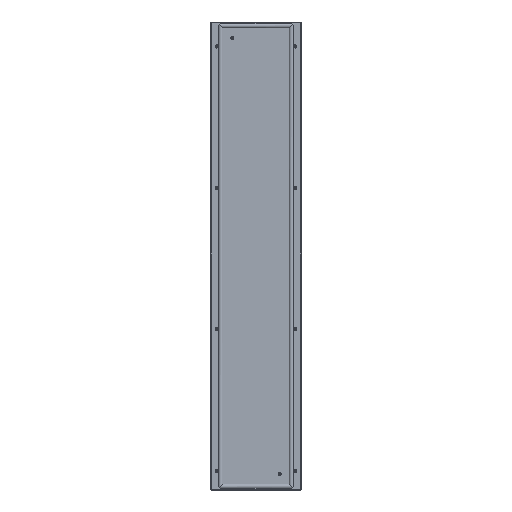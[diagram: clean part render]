
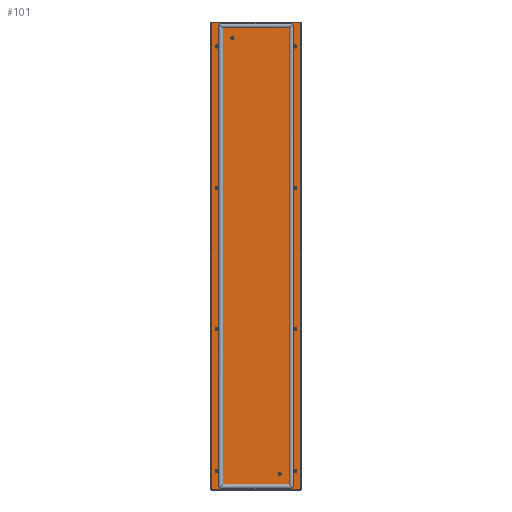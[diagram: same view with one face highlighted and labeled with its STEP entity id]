
A CAD part, top view. The second image highlights one B-rep face of the part: STEP entity #101.
In plain terms, the highlighted planar face has unit normal (0, 0, 1).
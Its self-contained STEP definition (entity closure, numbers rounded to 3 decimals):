
#101=ADVANCED_FACE('',(#386,#388,#390,#392,#394,#396,#398,#400,#402,#404,#406),#408,
.T.);
#386=FACE_BOUND('',#387,.T.);
#387=EDGE_LOOP('',(#1653,#1654,#1655,#1656));
#388=FACE_BOUND('',#389,.T.);
#389=EDGE_LOOP('',(#1657));
#390=FACE_BOUND('',#391,.T.);
#391=EDGE_LOOP('',(#1658));
#392=FACE_BOUND('',#393,.T.);
#393=EDGE_LOOP('',(#1659));
#394=FACE_BOUND('',#395,.T.);
#395=EDGE_LOOP('',(#1660));
#396=FACE_BOUND('',#397,.T.);
#397=EDGE_LOOP('',(#1661));
#398=FACE_BOUND('',#399,.T.);
#399=EDGE_LOOP('',(#1662));
#400=FACE_BOUND('',#401,.T.);
#401=EDGE_LOOP('',(#1663));
#402=FACE_BOUND('',#403,.T.);
#403=EDGE_LOOP('',(#1664));
#404=FACE_BOUND('',#405,.T.);
#405=EDGE_LOOP('',(#1665));
#406=FACE_BOUND('',#407,.T.);
#407=EDGE_LOOP('',(#1666));
#408=PLANE('',#409);
#409=AXIS2_PLACEMENT_3D('',#410,#411,#412);
#410=CARTESIAN_POINT('',(0.,0.,1.4));
#411=DIRECTION('',(0.,0.,1.));
#412=DIRECTION('',(1.,0.,0.));
#1653=ORIENTED_EDGE('',*,*,#2181,.F.);
#1654=ORIENTED_EDGE('',*,*,#2182,.F.);
#1655=ORIENTED_EDGE('',*,*,#2183,.F.);
#1656=ORIENTED_EDGE('',*,*,#2184,.F.);
#1657=ORIENTED_EDGE('',*,*,#2145,.F.);
#1658=ORIENTED_EDGE('',*,*,#2147,.F.);
#1659=ORIENTED_EDGE('',*,*,#2161,.F.);
#1660=ORIENTED_EDGE('',*,*,#2151,.F.);
#1661=ORIENTED_EDGE('',*,*,#2155,.F.);
#1662=ORIENTED_EDGE('',*,*,#2153,.F.);
#1663=ORIENTED_EDGE('',*,*,#2163,.F.);
#1664=ORIENTED_EDGE('',*,*,#2159,.F.);
#1665=ORIENTED_EDGE('',*,*,#2149,.F.);
#1666=ORIENTED_EDGE('',*,*,#2157,.F.);
#2145=EDGE_CURVE('',#2409,#2409,#2410,.T.);
#2147=EDGE_CURVE('',#2413,#2413,#2414,.T.);
#2149=EDGE_CURVE('',#2417,#2417,#2418,.T.);
#2151=EDGE_CURVE('',#2421,#2421,#2422,.T.);
#2153=EDGE_CURVE('',#2425,#2425,#2426,.T.);
#2155=EDGE_CURVE('',#2429,#2429,#2430,.T.);
#2157=EDGE_CURVE('',#2433,#2433,#2434,.T.);
#2159=EDGE_CURVE('',#2437,#2437,#2438,.T.);
#2161=EDGE_CURVE('',#2441,#2441,#2442,.T.);
#2163=EDGE_CURVE('',#2445,#2445,#2446,.T.);
#2181=EDGE_CURVE('',#2481,#2482,#2483,.T.);
#2182=EDGE_CURVE('',#2484,#2481,#2485,.T.);
#2183=EDGE_CURVE('',#2486,#2484,#2487,.T.);
#2184=EDGE_CURVE('',#2482,#2486,#2488,.T.);
#2409=VERTEX_POINT('',#2845);
#2410=CIRCLE('',#2846,0.5);
#2413=VERTEX_POINT('',#2855);
#2414=CIRCLE('',#2856,0.5);
#2417=VERTEX_POINT('',#2865);
#2418=CIRCLE('',#2866,6.75);
#2421=VERTEX_POINT('',#2875);
#2422=CIRCLE('',#2876,6.75);
#2425=VERTEX_POINT('',#2885);
#2426=CIRCLE('',#2886,6.75);
#2429=VERTEX_POINT('',#2895);
#2430=CIRCLE('',#2896,6.75);
#2433=VERTEX_POINT('',#2905);
#2434=CIRCLE('',#2906,6.75);
#2437=VERTEX_POINT('',#2915);
#2438=CIRCLE('',#2916,6.75);
#2441=VERTEX_POINT('',#2925);
#2442=CIRCLE('',#2926,6.75);
#2445=VERTEX_POINT('',#2935);
#2446=CIRCLE('',#2936,6.75);
#2481=VERTEX_POINT('',#3025);
#2482=VERTEX_POINT('',#3026);
#2483=LINE('',#3027,#3028);
#2484=VERTEX_POINT('',#3030);
#2485=LINE('',#3031,#3032);
#2486=VERTEX_POINT('',#3034);
#2487=LINE('',#3035,#3036);
#2488=LINE('',#3038,#3039);
#2845=CARTESIAN_POINT('',(100.5,-925.,1.4));
#2846=AXIS2_PLACEMENT_3D('',#2847,#2848,#2849);
#2847=CARTESIAN_POINT('',(100.,-925.,1.4));
#2848=DIRECTION('',(0.,0.,1.));
#2849=DIRECTION('',(-1.,0.,0.));
#2855=CARTESIAN_POINT('',(-99.5,925.,1.4));
#2856=AXIS2_PLACEMENT_3D('',#2857,#2858,#2859);
#2857=CARTESIAN_POINT('',(-100.,925.,1.4));
#2858=DIRECTION('',(0.,0.,1.));
#2859=DIRECTION('',(-1.,0.,0.));
#2865=CARTESIAN_POINT('',(173.75,889.25,1.4));
#2866=AXIS2_PLACEMENT_3D('',#2867,#2868,#2869);
#2867=CARTESIAN_POINT('',(167.,889.25,1.4));
#2868=DIRECTION('',(0.,0.,1.));
#2869=DIRECTION('',(-1.,0.,0.));
#2875=CARTESIAN_POINT('',(-160.25,-309.75,1.4));
#2876=AXIS2_PLACEMENT_3D('',#2877,#2878,#2879);
#2877=CARTESIAN_POINT('',(-167.,-309.75,1.4));
#2878=DIRECTION('',(0.,0.,1.));
#2879=DIRECTION('',(-1.,0.,0.));
#2885=CARTESIAN_POINT('',(173.75,-911.75,1.4));
#2886=AXIS2_PLACEMENT_3D('',#2887,#2888,#2889);
#2887=CARTESIAN_POINT('',(167.,-911.75,1.4));
#2888=DIRECTION('',(0.,0.,1.));
#2889=DIRECTION('',(-1.,0.,0.));
#2895=CARTESIAN_POINT('',(-160.25,-911.75,1.4));
#2896=AXIS2_PLACEMENT_3D('',#2897,#2898,#2899);
#2897=CARTESIAN_POINT('',(-167.,-911.75,1.4));
#2898=DIRECTION('',(0.,0.,1.));
#2899=DIRECTION('',(-1.,0.,0.));
#2905=CARTESIAN_POINT('',(-160.25,889.25,1.4));
#2906=AXIS2_PLACEMENT_3D('',#2907,#2908,#2909);
#2907=CARTESIAN_POINT('',(-167.,889.25,1.4));
#2908=DIRECTION('',(0.,0.,1.));
#2909=DIRECTION('',(-1.,0.,0.));
#2915=CARTESIAN_POINT('',(173.75,287.25,1.4));
#2916=AXIS2_PLACEMENT_3D('',#2917,#2918,#2919);
#2917=CARTESIAN_POINT('',(167.,287.25,1.4));
#2918=DIRECTION('',(0.,0.,1.));
#2919=DIRECTION('',(-1.,0.,0.));
#2925=CARTESIAN_POINT('',(-160.25,287.25,1.4));
#2926=AXIS2_PLACEMENT_3D('',#2927,#2928,#2929);
#2927=CARTESIAN_POINT('',(-167.,287.25,1.4));
#2928=DIRECTION('',(0.,0.,1.));
#2929=DIRECTION('',(-1.,0.,0.));
#2935=CARTESIAN_POINT('',(173.75,-309.75,1.4));
#2936=AXIS2_PLACEMENT_3D('',#2937,#2938,#2939);
#2937=CARTESIAN_POINT('',(167.,-309.75,1.4));
#2938=DIRECTION('',(0.,0.,1.));
#2939=DIRECTION('',(-1.,0.,0.));
#3025=CARTESIAN_POINT('',(189.8,989.8,1.4));
#3026=CARTESIAN_POINT('',(189.8,-989.8,1.4));
#3027=CARTESIAN_POINT('',(189.8,989.8,1.4));
#3028=VECTOR('',#3029,1.);
#3029=DIRECTION('',(0.,-1.,0.));
#3030=CARTESIAN_POINT('',(-189.8,989.8,1.4));
#3031=CARTESIAN_POINT('',(-189.8,989.8,1.4));
#3032=VECTOR('',#3033,1.);
#3033=DIRECTION('',(1.,0.,0.));
#3034=CARTESIAN_POINT('',(-189.8,-989.8,1.4));
#3035=CARTESIAN_POINT('',(-189.8,-989.8,1.4));
#3036=VECTOR('',#3037,1.);
#3037=DIRECTION('',(0.,1.,0.));
#3038=CARTESIAN_POINT('',(189.8,-989.8,1.4));
#3039=VECTOR('',#3040,1.);
#3040=DIRECTION('',(-1.,0.,0.));
